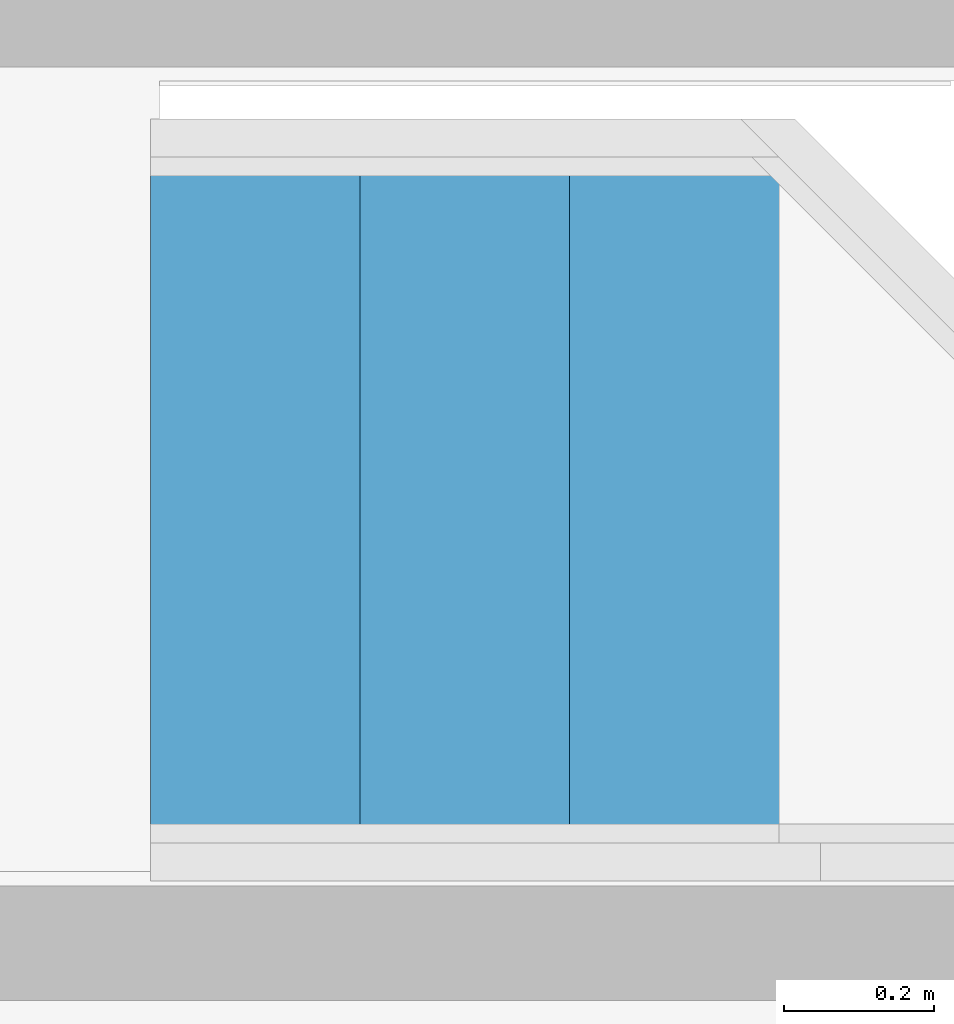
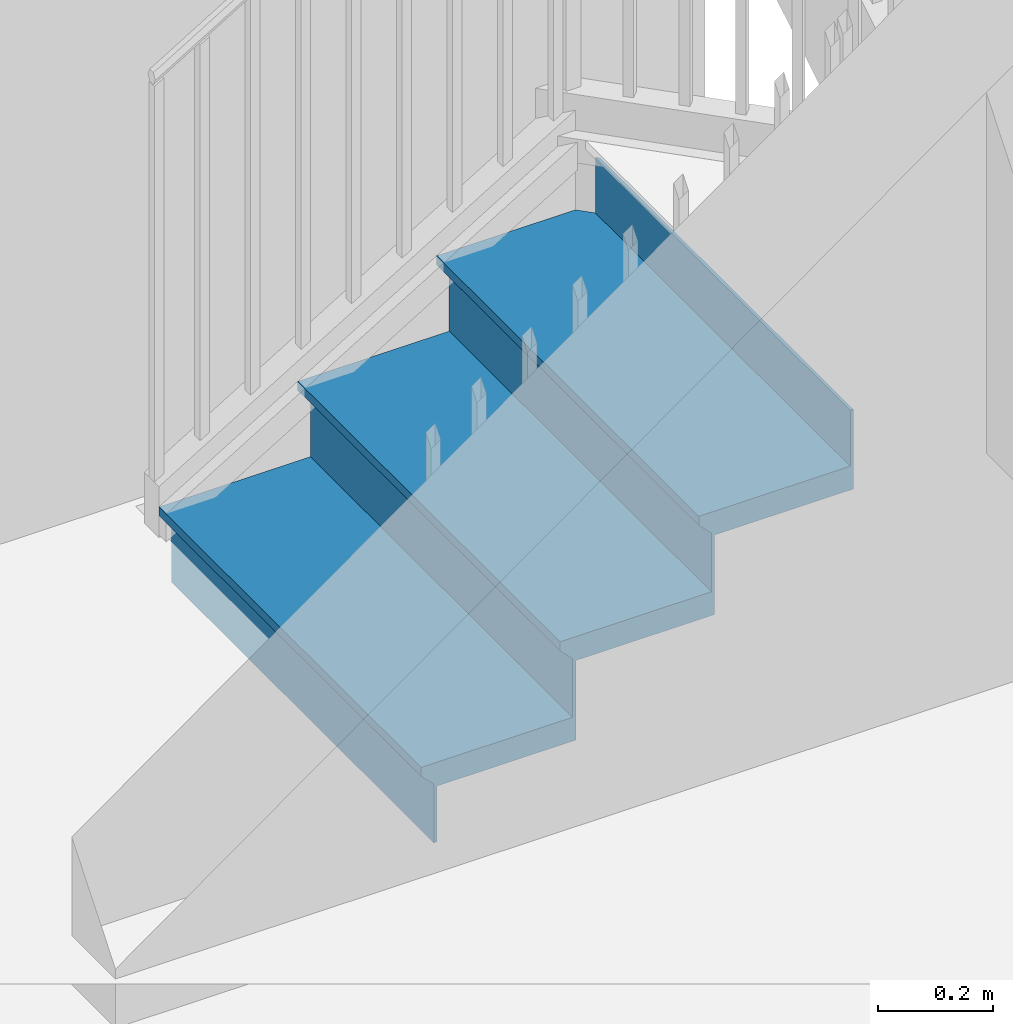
# One storey, part 8 of 21: 1 stair flight, 1 element without a shape of its own.
"""IFC2X3 building model written with IfcOpenShell, lengths in feet."""

from ifc_helpers import new_model, entity, si_unit, converted_unit, derived_unit, direction, origin, place, context, subcontext, project, spatial, faceted_brep, material, element, aggregate, save


model = new_model("IFC2X3")

# Units and contexts
model_context = context("Model", 3, precision=0.0001, world=origin(), true_north=direction((6.12303176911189e-17, 1.0)))
body_context = subcontext(model_context, "Body", "Model", "MODEL_VIEW")
ifc_project = project(units=[converted_unit("LENGTHUNIT", "FOOT", entity("IfcRatioMeasure", 0.3048), si_unit("LENGTHUNIT", "METRE"), dimensions=[1, 0, 0, 0, 0, 0, 0]), converted_unit("AREAUNIT", "SQUARE FOOT", entity("IfcRatioMeasure", 0.09290304), si_unit("AREAUNIT", "SQUARE_METRE"), dimensions=[2, 0, 0, 0, 0, 0, 0]), converted_unit("VOLUMEUNIT", "CUBIC FOOT", entity("IfcRatioMeasure", 0.028316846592), si_unit("VOLUMEUNIT", "CUBIC_METRE"), dimensions=[3, 0, 0, 0, 0, 0, 0]), converted_unit("PLANEANGLEUNIT", "DEGREE", entity("IfcRatioMeasure", 0.0174532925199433), si_unit("PLANEANGLEUNIT", "RADIAN"), dimensions=[0, 0, 0, 0, 0, 0, 0]), si_unit("MASSUNIT", "GRAM", prefix="KILO"), derived_unit("MASSDENSITYUNIT", [(si_unit("MASSUNIT", "GRAM", prefix="KILO"), 1), (si_unit("LENGTHUNIT", "METRE"), -3)]), si_unit("TIMEUNIT", "SECOND"), si_unit("FREQUENCYUNIT", "HERTZ"), si_unit("THERMODYNAMICTEMPERATUREUNIT", "DEGREE_CELSIUS"), derived_unit("THERMALTRANSMITTANCEUNIT", [(si_unit("MASSUNIT", "GRAM", prefix="KILO"), 1), (si_unit("THERMODYNAMICTEMPERATUREUNIT", "KELVIN"), -1), (si_unit("TIMEUNIT", "SECOND"), -3)]), derived_unit("VOLUMETRICFLOWRATEUNIT", [(si_unit("LENGTHUNIT", "METRE"), 3), (si_unit("TIMEUNIT", "SECOND"), -1)]), si_unit("ELECTRICCURRENTUNIT", "AMPERE"), si_unit("ELECTRICVOLTAGEUNIT", "VOLT"), si_unit("POWERUNIT", "WATT"), si_unit("FORCEUNIT", "NEWTON"), si_unit("ILLUMINANCEUNIT", "LUX"), si_unit("LUMINOUSFLUXUNIT", "LUMEN"), si_unit("LUMINOUSINTENSITYUNIT", "CANDELA"), derived_unit("USERDEFINED", [(si_unit("MASSUNIT", "GRAM", prefix="KILO"), -1), (si_unit("LENGTHUNIT", "METRE"), -2), (si_unit("TIMEUNIT", "SECOND"), 3), (si_unit("LUMINOUSFLUXUNIT", "LUMEN"), 1)]), derived_unit("LINEARVELOCITYUNIT", [(si_unit("LENGTHUNIT", "METRE"), 1), (si_unit("TIMEUNIT", "SECOND"), -1)]), si_unit("PRESSUREUNIT", "PASCAL"), derived_unit("USERDEFINED", [(si_unit("LENGTHUNIT", "METRE"), -2), (si_unit("MASSUNIT", "GRAM", prefix="KILO"), 1), (si_unit("TIMEUNIT", "SECOND"), -2)])], contexts=[model_context])

# Site, building, storey
site_placement = place(None, origin())
site = spatial("IfcSite", under=ifc_project, at=site_placement, Name="表面", CompositionType="ELEMENT")
building_placement = place(site_placement, origin())
building = spatial("IfcBuilding", under=site, at=building_placement, CompositionType="ELEMENT")
storey_placement = place(building_placement, origin())
storey = spatial("IfcBuildingStorey", under=building, at=storey_placement, Name="Level 1", CompositionType="ELEMENT", Elevation=0.0)

# Stair, stair flight
stair_placement = place(storey_placement, origin())
stair = element("IfcStair", 1, at=stair_placement, inside=storey, Name="楼梯:7\" max riser 11\" tread", ObjectType="楼梯:7\" max riser 11\" tread", ShapeType="NOTDEFINED")
ifc_material = material(Name="Metal - Aluminum")
stair_flight_placement = place(stair_placement, origin())
stair_flight = element("IfcStairFlight", 2, at=stair_flight_placement, material=ifc_material, Name="楼梯:7\" max riser 11\" tread:1", ObjectType="楼梯:7\" max riser 11\" tread", NumberOfRiser=4, NumberOfTreads=3, RiserHeight=0.555555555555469, TreadLength=0.91666666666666, context=body_context, shape_type="Brep", body=[
    faceted_brep([(8.21508691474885, -7.87854944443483, 0.493055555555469), (8.21508691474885, -7.87854944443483, 0.555555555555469), (8.21508691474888, -4.8785494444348, 0.555555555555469), (8.21508691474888, -4.8785494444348, 0.493055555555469), (8.29842024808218, -7.87854944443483, 0.409722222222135), (8.29842024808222, -4.8785494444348, 0.409722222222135), (9.21508691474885, -7.87854944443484, 0.555555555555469), (9.21508691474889, -4.87854944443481, 0.555555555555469), (8.29842024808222, -4.8785494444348, 0.388888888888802), (9.21508691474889, -4.87854944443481, 0.388888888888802), (9.21508691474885, -7.87854944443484, 0.388888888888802), (8.29842024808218, -7.87854944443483, 0.388888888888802)], [[[0, 1, 2, 3]], [[4, 0, 3, 5]], [[2, 1, 6, 7]], [[8, 9, 10, 11]], [[6, 1, 0, 4, 11, 10]], [[8, 11, 4, 5]], [[2, 7, 9, 8, 5, 3]], [[7, 6, 10, 9]]]),
    faceted_brep([(8.29842024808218, -7.87854944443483, 0.388888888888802), (8.29842024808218, -7.87854944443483, 0.0), (8.31925358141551, -7.87854944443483, 0.0), (8.31925358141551, -7.87854944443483, 0.388888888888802), (8.29842024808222, -4.8785494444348, 0.388888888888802), (8.31925358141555, -4.8785494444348, 0.388888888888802), (8.31925358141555, -4.8785494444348, 0.0), (8.29842024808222, -4.8785494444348, 0.0)], [[[0, 1, 2, 3]], [[4, 5, 6, 7]], [[1, 0, 4, 7]], [[2, 1, 7, 6]], [[3, 2, 6, 5]], [[0, 3, 5, 4]]]),
    faceted_brep([(9.21508691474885, -7.87854944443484, 0.944444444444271), (9.21508691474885, -7.87854944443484, 0.388888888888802), (9.23592024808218, -7.87854944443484, 0.388888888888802), (9.23592024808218, -7.87854944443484, 0.944444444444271), (9.21508691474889, -4.87854944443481, 0.944444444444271), (9.23592024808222, -4.87854944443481, 0.944444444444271), (9.23592024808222, -4.87854944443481, 0.388888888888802), (9.21508691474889, -4.87854944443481, 0.388888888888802)], [[[0, 1, 2, 3]], [[4, 5, 6, 7]], [[1, 0, 4, 7]], [[2, 1, 7, 6]], [[3, 2, 6, 5]], [[0, 3, 5, 4]]]),
    faceted_brep([(9.13175358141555, -4.87854944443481, 1.11111111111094), (9.13175358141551, -7.87854944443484, 1.11111111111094), (10.1317535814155, -7.87854944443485, 1.11111111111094), (10.1317535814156, -4.87854944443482, 1.11111111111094), (9.21508691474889, -4.87854944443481, 0.944444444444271), (10.1317535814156, -4.87854944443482, 0.944444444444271), (10.1317535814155, -7.87854944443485, 0.944444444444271), (9.21508691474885, -7.87854944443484, 0.944444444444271), (9.13175358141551, -7.87854944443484, 1.04861111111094), (9.21508691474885, -7.87854944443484, 0.965277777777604), (9.21508691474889, -4.87854944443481, 0.965277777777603), (9.13175358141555, -4.87854944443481, 1.04861111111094)], [[[0, 1, 2, 3]], [[4, 5, 6, 7]], [[2, 1, 8, 9, 7, 6]], [[4, 7, 9, 10]], [[0, 3, 5, 4, 10, 11]], [[3, 2, 6, 5]], [[8, 1, 0, 11]], [[9, 8, 11, 10]]]),
    faceted_brep([(10.1317535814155, -7.87854944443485, 1.49999999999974), (10.1317535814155, -7.87854944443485, 0.944444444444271), (10.1525869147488, -7.87854944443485, 0.944444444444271), (10.1525869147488, -7.87854944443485, 1.49999999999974), (10.1317535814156, -4.87854944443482, 1.49999999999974), (10.1525869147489, -4.87854944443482, 1.49999999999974), (10.1525869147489, -4.87854944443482, 0.94444444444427), (10.1317535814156, -4.87854944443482, 0.944444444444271)], [[[0, 1, 2, 3]], [[4, 5, 6, 7]], [[1, 0, 4, 7]], [[2, 1, 7, 6]], [[3, 2, 6, 5]], [[0, 3, 5, 4]]]),
    faceted_brep([(11.0484202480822, -4.96188277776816, 1.66666666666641), (10.9650869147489, -4.87854944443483, 1.66666666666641), (10.0484202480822, -4.87854944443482, 1.66666666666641), (10.0484202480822, -7.87854944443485, 1.66666666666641), (10.9650869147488, -7.87854944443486, 1.66666666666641), (11.0484202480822, -7.87854944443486, 1.66666666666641), (10.9650869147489, -4.87854944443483, 1.49999999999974), (11.0484202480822, -4.96188277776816, 1.49999999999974), (11.0484202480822, -7.87854944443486, 1.49999999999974), (10.9650869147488, -7.87854944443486, 1.49999999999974), (10.1317535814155, -7.87854944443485, 1.49999999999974), (10.1317535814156, -4.87854944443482, 1.49999999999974), (10.0484202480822, -7.87854944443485, 1.60416666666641), (10.1317535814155, -7.87854944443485, 1.52083333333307), (10.1317535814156, -4.87854944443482, 1.52083333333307), (10.0484202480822, -4.87854944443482, 1.60416666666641)], [[[0, 1, 2, 3, 4, 5]], [[6, 7, 8, 9, 10, 11]], [[5, 4, 9, 8]], [[4, 3, 12, 13, 10, 9]], [[11, 10, 13, 14]], [[2, 1, 6, 11, 14, 15]], [[1, 0, 7, 6]], [[0, 5, 8, 7]], [[12, 3, 2, 15]], [[13, 12, 15, 14]]]),
    faceted_brep([(11.0484202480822, -7.87854944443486, 2.05555555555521), (11.0484202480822, -7.87854944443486, 1.49999999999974), (11.0692535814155, -7.87854944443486, 1.49999999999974), (11.0692535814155, -7.87854944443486, 2.05555555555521), (11.0484202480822, -4.96188277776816, 2.05555555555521), (11.0692535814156, -4.9827161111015, 2.05555555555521), (11.0692535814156, -4.9827161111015, 1.49999999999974), (11.0484202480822, -4.96188277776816, 1.49999999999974)], [[[0, 1, 2, 3]], [[4, 5, 6, 7]], [[1, 0, 4, 7]], [[2, 1, 7, 6]], [[3, 2, 6, 5]], [[0, 3, 5, 4]]]),
])
aggregate(stair, [stair_flight])

save(model, "model.ifc")
